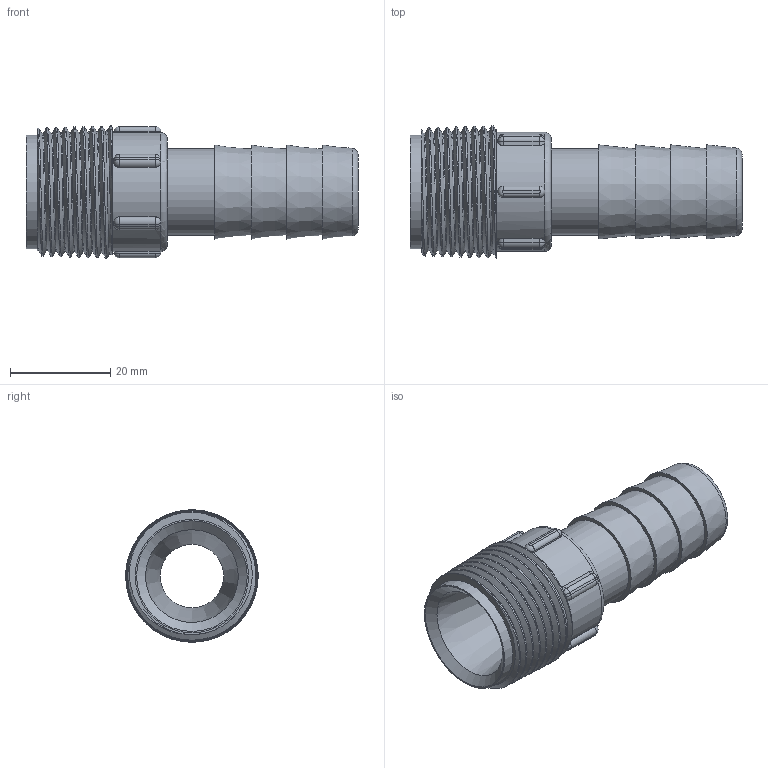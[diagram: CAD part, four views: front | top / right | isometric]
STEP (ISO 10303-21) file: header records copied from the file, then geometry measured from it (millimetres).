
FILE_DESCRIPTION(/* description */ ('Alibre Inc.'),/* implementation_level */ '2;1');
FILE_NAME(/* name */ 'export0',/* time_stamp */ '2016-12-06T14:18:03-05:00',/* author */ (''),/* organization */ (''),/* preprocessor_version */ 'ST-DEVELOPER v14',/* originating_system */ 'Alibre',/* authorisation */ '');
FILE_SCHEMA (('CONFIG_CONTROL_DESIGN'));
Length unit declared in the file: centimetre
Products named in the file (1): ID_1
Bounding box: 66.29 x 26.45 x 26.45 mm (x, y, z)
Volume: 12954.5 mm3; surface area: 8679.8 mm2
Topology: 1 solids, 1 shells, 131 faces, 310 edges, 180 vertices
Faces by surface type: cylinder 44, plane 35, cone 27, sphere 16, torus 6, bspline 3
Full cylindrical faces by diameter (mm): 12.7 x1, 17.272 x1, 22.646 x1, 23.802 x1
Entity records: 24685 total; most frequent: CARTESIAN_POINT 21876, ORIENTED_EDGE 570, DIRECTION 512, EDGE_CURVE 285, AXIS2_PLACEMENT_3D 221, VERTEX_POINT 175, EDGE_LOOP 152, FACE_BOUND 152
